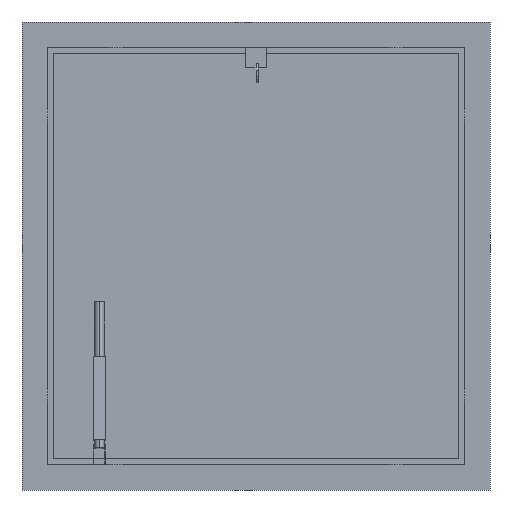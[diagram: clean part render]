
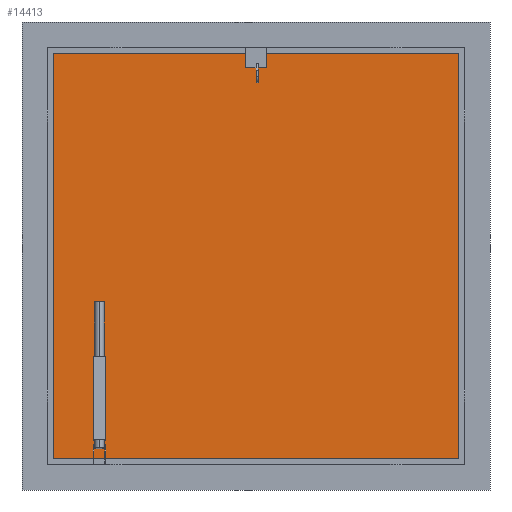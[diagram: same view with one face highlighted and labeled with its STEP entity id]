
A CAD part, front view. The second image highlights one B-rep face of the part: STEP entity #14413.
In plain terms, the highlighted planar face has unit normal (0, -1, 0).
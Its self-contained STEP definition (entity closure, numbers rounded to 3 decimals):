
#5834=DIRECTION('',(0.,0.,-1.));
#5835=VECTOR('',#5834,1048.);
#5836=CARTESIAN_POINT('',(524.,75.,515.));
#5837=LINE('',#5836,#5835);
#5842=DIRECTION('',(0.,0.,-1.));
#5843=VECTOR('',#5842,30.);
#5844=CARTESIAN_POINT('',(0.,75.,445.));
#5845=LINE('',#5844,#5843);
#5846=DIRECTION('',(1.,0.,0.));
#5847=VECTOR('',#5846,5.);
#5848=CARTESIAN_POINT('',(0.,75.,415.));
#5849=LINE('',#5848,#5847);
#5850=DIRECTION('',(0.,0.,-1.));
#5851=VECTOR('',#5850,30.);
#5852=CARTESIAN_POINT('',(5.,75.,445.));
#5853=LINE('',#5852,#5851);
#5854=DIRECTION('',(1.,0.,0.));
#5855=VECTOR('',#5854,5.);
#5856=CARTESIAN_POINT('',(0.,75.,445.));
#5857=LINE('',#5856,#5855);
#5858=DIRECTION('',(-1.,0.,0.));
#5859=VECTOR('',#5858,1048.);
#5860=CARTESIAN_POINT('',(524.,75.,-533.));
#5861=LINE('',#5860,#5859);
#5866=DIRECTION('',(0.,0.,1.));
#5867=VECTOR('',#5866,1048.);
#5868=CARTESIAN_POINT('',(-524.,75.,-533.));
#5869=LINE('',#5868,#5867);
#5874=DIRECTION('',(1.,0.,0.));
#5875=VECTOR('',#5874,1048.);
#5876=CARTESIAN_POINT('',(-524.,75.,515.));
#5877=LINE('',#5876,#5875);
#11325=CARTESIAN_POINT('',(524.,75.,515.));
#11326=CARTESIAN_POINT('',(524.,75.,-533.));
#11327=VERTEX_POINT('',#11325);
#11328=VERTEX_POINT('',#11326);
#11329=CARTESIAN_POINT('',(-524.,75.,-533.));
#11330=VERTEX_POINT('',#11329);
#11331=CARTESIAN_POINT('',(-524.,75.,515.));
#11332=VERTEX_POINT('',#11331);
#11367=CARTESIAN_POINT('',(0.,75.,445.));
#11368=CARTESIAN_POINT('',(0.,75.,415.));
#11369=VERTEX_POINT('',#11367);
#11370=VERTEX_POINT('',#11368);
#11371=CARTESIAN_POINT('',(5.,75.,445.));
#11372=CARTESIAN_POINT('',(5.,75.,415.));
#11373=VERTEX_POINT('',#11371);
#11374=VERTEX_POINT('',#11372);
#14389=CARTESIAN_POINT('',(0.,75.,0.));
#14390=DIRECTION('',(0.,1.,0.));
#14391=DIRECTION('',(0.,0.,-1.));
#14392=AXIS2_PLACEMENT_3D('',#14389,#14390,#14391);
#14393=PLANE('',#14392);
#14394=ORIENTED_EDGE('',*,*,#14379,.T.);
#14396=ORIENTED_EDGE('',*,*,#14395,.T.);
#14398=ORIENTED_EDGE('',*,*,#14397,.T.);
#14400=ORIENTED_EDGE('',*,*,#14399,.T.);
#14401=EDGE_LOOP('',(#14394,#14396,#14398,#14400));
#14402=FACE_OUTER_BOUND('',#14401,.F.);
#14404=ORIENTED_EDGE('',*,*,#14403,.T.);
#14406=ORIENTED_EDGE('',*,*,#14405,.T.);
#14408=ORIENTED_EDGE('',*,*,#14407,.F.);
#14410=ORIENTED_EDGE('',*,*,#14409,.F.);
#14411=EDGE_LOOP('',(#14404,#14406,#14408,#14410));
#14412=FACE_BOUND('',#14411,.F.);
#14379=EDGE_CURVE('',#11327,#11328,#5837,.T.);
#14395=EDGE_CURVE('',#11328,#11330,#5861,.T.);
#14397=EDGE_CURVE('',#11330,#11332,#5869,.T.);
#14399=EDGE_CURVE('',#11332,#11327,#5877,.T.);
#14403=EDGE_CURVE('',#11369,#11370,#5845,.T.);
#14405=EDGE_CURVE('',#11370,#11374,#5849,.T.);
#14407=EDGE_CURVE('',#11373,#11374,#5853,.T.);
#14409=EDGE_CURVE('',#11369,#11373,#5857,.T.);
#14413=ADVANCED_FACE('',(#14402,#14412),#14393,.F.);
